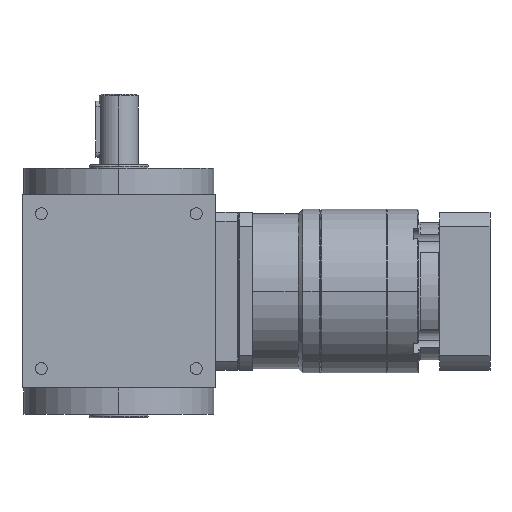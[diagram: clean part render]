
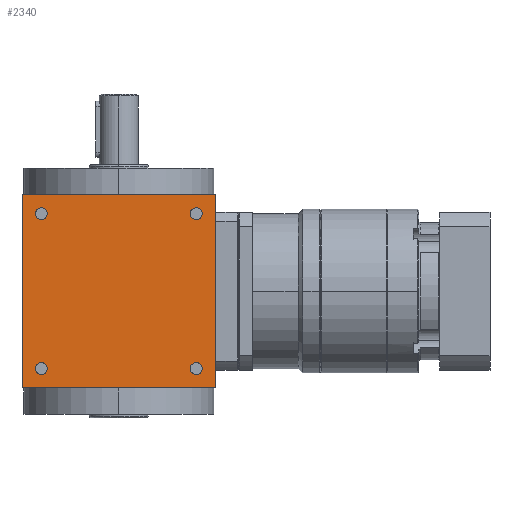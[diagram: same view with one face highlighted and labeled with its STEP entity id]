
A CAD part, left-side view. The second image highlights one B-rep face of the part: STEP entity #2340.
In plain terms, the highlighted planar face has unit normal (-1, 0, 0).
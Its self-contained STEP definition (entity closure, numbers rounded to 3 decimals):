
#343 = DIRECTION ( 'NONE',  ( 0., 0., 1. ) ) ;
#347 = VERTEX_POINT ( 'NONE', #15727 ) ;
#487 = CARTESIAN_POINT ( 'NONE',  ( -55., 44., 44. ) ) ;
#552 = VERTEX_POINT ( 'NONE', #2333 ) ;
#697 = VERTEX_POINT ( 'NONE', #1434 ) ;
#832 = CIRCLE ( 'NONE', #9997, 3.4 ) ;
#950 = DIRECTION ( 'NONE',  ( 1., 0., 0. ) ) ;
#1054 = EDGE_CURVE ( 'NONE', #7187, #12954, #832, .T. ) ;
#1109 = FACE_BOUND ( 'NONE', #9600, .T. ) ;
#1270 = EDGE_CURVE ( 'NONE', #3379, #3421, #3333, .T. ) ;
#1274 = ORIENTED_EDGE ( 'NONE', *, *, #2988, .T. ) ;
#1434 = CARTESIAN_POINT ( 'NONE',  ( -55., -44., -40.6 ) ) ;
#1466 = ORIENTED_EDGE ( 'NONE', *, *, #15299, .T. ) ;
#1630 = AXIS2_PLACEMENT_3D ( 'NONE', #5396, #12869, #1785 ) ;
#1660 = DIRECTION ( 'NONE',  ( 1., 0., 0. ) ) ;
#1785 = DIRECTION ( 'NONE',  ( 0., 0., 1. ) ) ;
#2264 = CARTESIAN_POINT ( 'NONE',  ( -55., -44., 44. ) ) ;
#2333 = CARTESIAN_POINT ( 'NONE',  ( -55., -55., -55. ) ) ;
#2340 = ADVANCED_FACE ( 'NONE', ( #4053, #1109, #15371, #16050, #4813 ), #9918, .T. ) ;
#2560 = ORIENTED_EDGE ( 'NONE', *, *, #3861, .T. ) ;
#2564 = DIRECTION ( 'NONE',  ( 1., 0., 0. ) ) ;
#2787 = CARTESIAN_POINT ( 'NONE',  ( -55., 55., -55. ) ) ;
#2988 = EDGE_CURVE ( 'NONE', #4837, #8081, #7299, .T. ) ;
#3196 = DIRECTION ( 'NONE',  ( 0., 0., 1. ) ) ;
#3333 = CIRCLE ( 'NONE', #9902, 3.4 ) ;
#3378 = DIRECTION ( 'NONE',  ( 1., 0., 0. ) ) ;
#3379 = VERTEX_POINT ( 'NONE', #6139 ) ;
#3421 = VERTEX_POINT ( 'NONE', #11394 ) ;
#3471 = LINE ( 'NONE', #8494, #13707 ) ;
#3721 = CARTESIAN_POINT ( 'NONE',  ( -55., 44., 44. ) ) ;
#3808 = DIRECTION ( 'NONE',  ( 0., 0., 1. ) ) ;
#3809 = ORIENTED_EDGE ( 'NONE', *, *, #15225, .T. ) ;
#3833 = ORIENTED_EDGE ( 'NONE', *, *, #7002, .T. ) ;
#3861 = EDGE_CURVE ( 'NONE', #11720, #347, #5828, .T. ) ;
#3881 = CARTESIAN_POINT ( 'NONE',  ( -55., -44., -44. ) ) ;
#4053 = FACE_OUTER_BOUND ( 'NONE', #10636, .T. ) ;
#4100 = CARTESIAN_POINT ( 'NONE',  ( -55., 55., 55. ) ) ;
#4196 = AXIS2_PLACEMENT_3D ( 'NONE', #5559, #8188, #13195 ) ;
#4197 = DIRECTION ( 'NONE',  ( 0., 0., 1. ) ) ;
#4434 = VERTEX_POINT ( 'NONE', #2787 ) ;
#4813 = FACE_BOUND ( 'NONE', #9844, .T. ) ;
#4837 = VERTEX_POINT ( 'NONE', #10993 ) ;
#4999 = CIRCLE ( 'NONE', #12611, 3.4 ) ;
#5188 = CARTESIAN_POINT ( 'NONE',  ( -55., -44., -44. ) ) ;
#5396 = CARTESIAN_POINT ( 'NONE',  ( -55., -44., 44. ) ) ;
#5425 = DIRECTION ( 'NONE',  ( 1., 0., 0. ) ) ;
#5559 = CARTESIAN_POINT ( 'NONE',  ( -55., 44., -44. ) ) ;
#5635 = ORIENTED_EDGE ( 'NONE', *, *, #1054, .T. ) ;
#5715 = ORIENTED_EDGE ( 'NONE', *, *, #9705, .T. ) ;
#5828 = CIRCLE ( 'NONE', #1630, 3.4 ) ;
#6139 = CARTESIAN_POINT ( 'NONE',  ( -55., 44., -40.6 ) ) ;
#6588 = DIRECTION ( 'NONE',  ( 1., 0., 0. ) ) ;
#6800 = VECTOR ( 'NONE', #12395, 1000. ) ;
#7002 = EDGE_CURVE ( 'NONE', #4434, #552, #12596, .T. ) ;
#7145 = ORIENTED_EDGE ( 'NONE', *, *, #1270, .T. ) ;
#7187 = VERTEX_POINT ( 'NONE', #13166 ) ;
#7294 = CARTESIAN_POINT ( 'NONE',  ( -55., -44., -47.4 ) ) ;
#7299 = LINE ( 'NONE', #12312, #6800 ) ;
#7640 = CIRCLE ( 'NONE', #13663, 3.4 ) ;
#7659 = ORIENTED_EDGE ( 'NONE', *, *, #12944, .T. ) ;
#8081 = VERTEX_POINT ( 'NONE', #4100 ) ;
#8188 = DIRECTION ( 'NONE',  ( 1., 0., 0. ) ) ;
#8245 = ORIENTED_EDGE ( 'NONE', *, *, #12201, .T. ) ;
#8316 = AXIS2_PLACEMENT_3D ( 'NONE', #9838, #14826, #14905 ) ;
#8396 = CIRCLE ( 'NONE', #4196, 3.4 ) ;
#8494 = CARTESIAN_POINT ( 'NONE',  ( -55., -55., -55. ) ) ;
#8539 = CARTESIAN_POINT ( 'NONE',  ( -55., 44., 47.4 ) ) ;
#8974 = CIRCLE ( 'NONE', #16026, 3.4 ) ;
#8990 = VECTOR ( 'NONE', #12344, 1000. ) ;
#9072 = ORIENTED_EDGE ( 'NONE', *, *, #14374, .T. ) ;
#9600 = EDGE_LOOP ( 'NONE', ( #9072, #2560 ) ) ;
#9705 = EDGE_CURVE ( 'NONE', #3421, #3379, #8396, .T. ) ;
#9838 = CARTESIAN_POINT ( 'NONE',  ( -55., 55., -55. ) ) ;
#9844 = EDGE_LOOP ( 'NONE', ( #7659, #5635 ) ) ;
#9902 = AXIS2_PLACEMENT_3D ( 'NONE', #10947, #3378, #14867 ) ;
#9918 = PLANE ( 'NONE',  #8316 ) ;
#9997 = AXIS2_PLACEMENT_3D ( 'NONE', #3721, #2564, #3808 ) ;
#10071 = CARTESIAN_POINT ( 'NONE',  ( -55., 55., -55. ) ) ;
#10443 = CARTESIAN_POINT ( 'NONE',  ( -55., -44., 40.6 ) ) ;
#10564 = VECTOR ( 'NONE', #15052, 1000. ) ;
#10636 = EDGE_LOOP ( 'NONE', ( #8245, #3833, #11281, #1274 ) ) ;
#10947 = CARTESIAN_POINT ( 'NONE',  ( -55., 44., -44. ) ) ;
#10993 = CARTESIAN_POINT ( 'NONE',  ( -55., -55., 55. ) ) ;
#11118 = CARTESIAN_POINT ( 'NONE',  ( -55., 55., -55. ) ) ;
#11281 = ORIENTED_EDGE ( 'NONE', *, *, #12275, .T. ) ;
#11394 = CARTESIAN_POINT ( 'NONE',  ( -55., 44., -47.4 ) ) ;
#11720 = VERTEX_POINT ( 'NONE', #10443 ) ;
#12201 = EDGE_CURVE ( 'NONE', #8081, #4434, #15945, .T. ) ;
#12275 = EDGE_CURVE ( 'NONE', #552, #4837, #3471, .T. ) ;
#12312 = CARTESIAN_POINT ( 'NONE',  ( -55., 55., 55. ) ) ;
#12344 = DIRECTION ( 'NONE',  ( 0., 0., -1. ) ) ;
#12395 = DIRECTION ( 'NONE',  ( 0., 1., 0. ) ) ;
#12596 = LINE ( 'NONE', #10071, #10564 ) ;
#12611 = AXIS2_PLACEMENT_3D ( 'NONE', #2264, #950, #15817 ) ;
#12869 = DIRECTION ( 'NONE',  ( 1., 0., 0. ) ) ;
#12944 = EDGE_CURVE ( 'NONE', #12954, #7187, #16216, .T. ) ;
#12954 = VERTEX_POINT ( 'NONE', #8539 ) ;
#13089 = VERTEX_POINT ( 'NONE', #7294 ) ;
#13166 = CARTESIAN_POINT ( 'NONE',  ( -55., 44., 40.6 ) ) ;
#13195 = DIRECTION ( 'NONE',  ( 0., 0., 1. ) ) ;
#13663 = AXIS2_PLACEMENT_3D ( 'NONE', #3881, #6588, #4197 ) ;
#13707 = VECTOR ( 'NONE', #343, 1000. ) ;
#14329 = EDGE_LOOP ( 'NONE', ( #1466, #3809 ) ) ;
#14374 = EDGE_CURVE ( 'NONE', #347, #11720, #4999, .T. ) ;
#14826 = DIRECTION ( 'NONE',  ( -1., 0., 0. ) ) ;
#14867 = DIRECTION ( 'NONE',  ( 0., 0., 1. ) ) ;
#14905 = DIRECTION ( 'NONE',  ( 0., 0., 1. ) ) ;
#15052 = DIRECTION ( 'NONE',  ( 0., -1., 0. ) ) ;
#15225 = EDGE_CURVE ( 'NONE', #13089, #697, #7640, .T. ) ;
#15299 = EDGE_CURVE ( 'NONE', #697, #13089, #8974, .T. ) ;
#15354 = EDGE_LOOP ( 'NONE', ( #7145, #5715 ) ) ;
#15371 = FACE_BOUND ( 'NONE', #15354, .T. ) ;
#15441 = DIRECTION ( 'NONE',  ( 0., 0., 1. ) ) ;
#15705 = AXIS2_PLACEMENT_3D ( 'NONE', #487, #5425, #3196 ) ;
#15727 = CARTESIAN_POINT ( 'NONE',  ( -55., -44., 47.4 ) ) ;
#15817 = DIRECTION ( 'NONE',  ( 0., 0., 1. ) ) ;
#15945 = LINE ( 'NONE', #11118, #8990 ) ;
#16026 = AXIS2_PLACEMENT_3D ( 'NONE', #5188, #1660, #15441 ) ;
#16050 = FACE_BOUND ( 'NONE', #14329, .T. ) ;
#16216 = CIRCLE ( 'NONE', #15705, 3.4 ) ;
